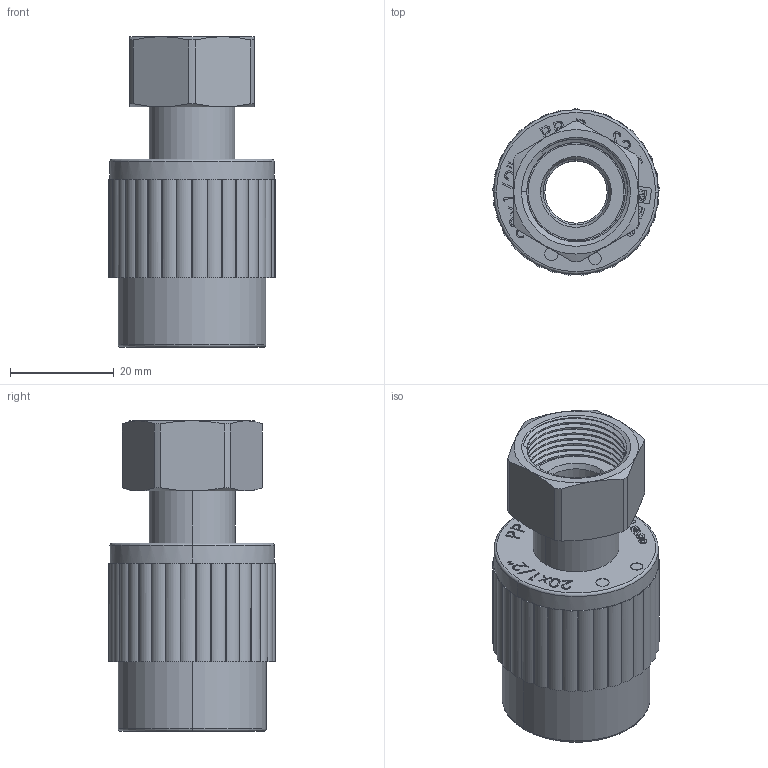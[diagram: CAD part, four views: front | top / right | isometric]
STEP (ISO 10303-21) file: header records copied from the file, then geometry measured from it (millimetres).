
FILE_DESCRIPTION (( 'STEP AP203' ), '1' );
FILE_NAME ('PPG01_ASM.STEP', '2021-10-13T14:17:06', ( '' ), ( '' ), 'SwSTEP 2.0', 'SolidWorks 2017', '' );
FILE_SCHEMA (( 'CONFIG_CONTROL_DESIGN' ));
Length unit declared in the file: millimetre
Products named in the file (4): PPG01_PLASTIC; PPG01_ASM; PPG01_NUT; PPG01_INSERT
Assembly tree (3 placements, depth 2):
  PPG01_ASM
    PPG01_PLASTIC
    PPG01_INSERT
    PPG01_NUT
Bounding box: 32.07 x 32.03 x 59.9 mm (x, y, z)
Volume: 23824.5 mm3; surface area: 13099.2 mm2
Topology: 3 solids, 3 shells, 569 faces, 1457 edges, 938 vertices
Faces by surface type: plane 292, cylinder 154, bspline 95, cone 22, torus 6
Entity records: 23162 total; most frequent: CARTESIAN_POINT 9331, ORIENTED_EDGE 2914, DIRECTION 2632, EDGE_CURVE 1457, AXIS2_PLACEMENT_3D 942, VERTEX_POINT 938, VECTOR 748, LINE 748
